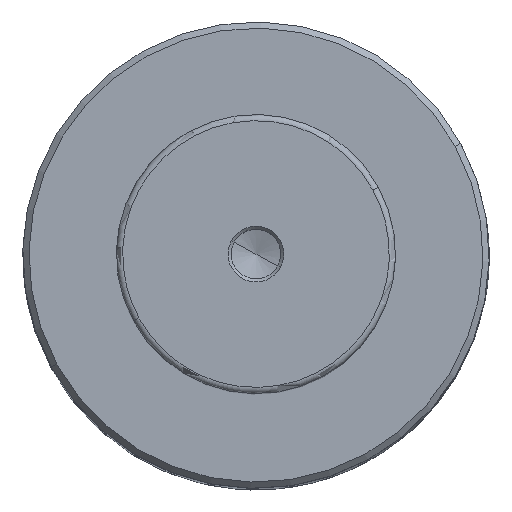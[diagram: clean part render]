
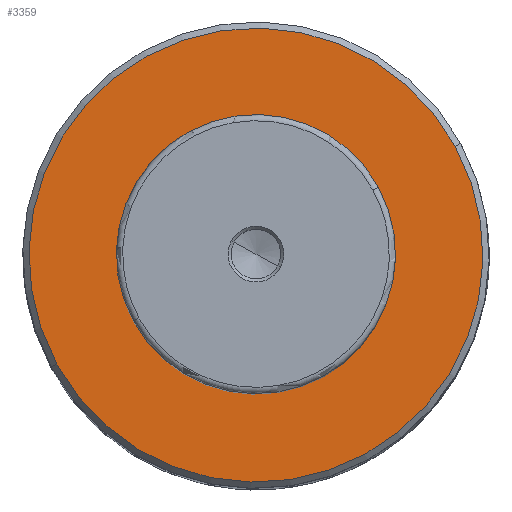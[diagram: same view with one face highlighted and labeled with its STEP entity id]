
A CAD part, top view. The second image highlights one B-rep face of the part: STEP entity #3359.
In plain terms, the highlighted planar face has unit normal (0, 0, 1).
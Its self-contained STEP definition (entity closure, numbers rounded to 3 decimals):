
#3073=CARTESIAN_POINT('Vertex',(32.12,17.547,158.)) ;
#3076=CARTESIAN_POINT('Axis2P3D Location',(0.,0.,158.)) ;
#3080=CARTESIAN_POINT('Vertex',(-32.12,-17.547,158.)) ;
#3338=CARTESIAN_POINT('Axis2P3D Location',(0.,0.,158.)) ;
#3350=CARTESIAN_POINT('Axis2P3D Location',(36.6,0.,158.)) ;
#3077=DIRECTION('Axis2P3D Direction',(0.,0.,-1.)) ;
#3339=DIRECTION('Axis2P3D Direction',(0.,0.,-1.)) ;
#3351=DIRECTION('Axis2P3D Direction',(0.,0.,1.)) ;
#3352=DIRECTION('Axis2P3D XDirection',(1.,0.,0.)) ;
#3078=AXIS2_PLACEMENT_3D('Circle Axis2P3D',#3076,#3077,$) ;
#3340=AXIS2_PLACEMENT_3D('Circle Axis2P3D',#3338,#3339,$) ;
#3353=AXIS2_PLACEMENT_3D('Plane Axis2P3D',#3350,#3351,#3352) ;
#3356=ORIENTED_EDGE('',*,*,#3082,.T.) ;
#3357=ORIENTED_EDGE('',*,*,#3342,.T.) ;
#3359=ADVANCED_FACE('',(#3358),#3354,.T.) ;
#3079=CIRCLE('generated circle',#3078,36.6) ;
#3341=CIRCLE('generated circle',#3340,36.6) ;
#3082=EDGE_CURVE('',#3081,#3074,#3079,.F.) ;
#3342=EDGE_CURVE('',#3074,#3081,#3341,.F.) ;
#3355=EDGE_LOOP('',(#3356,#3357)) ;
#3358=FACE_OUTER_BOUND('',#3355,.T.) ;
#3354=PLANE('Plane',#3353) ;
#3074=VERTEX_POINT('',#3073) ;
#3081=VERTEX_POINT('',#3080) ;
